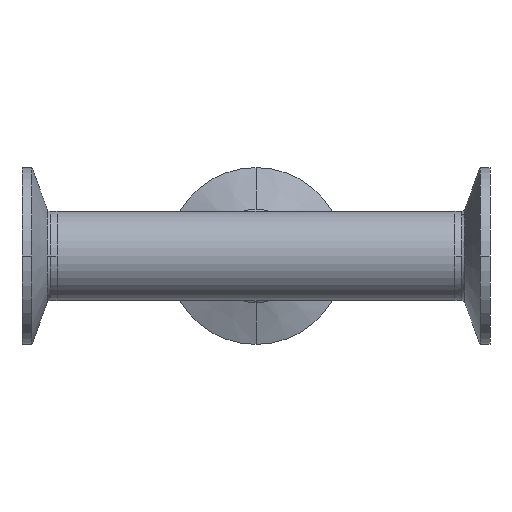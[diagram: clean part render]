
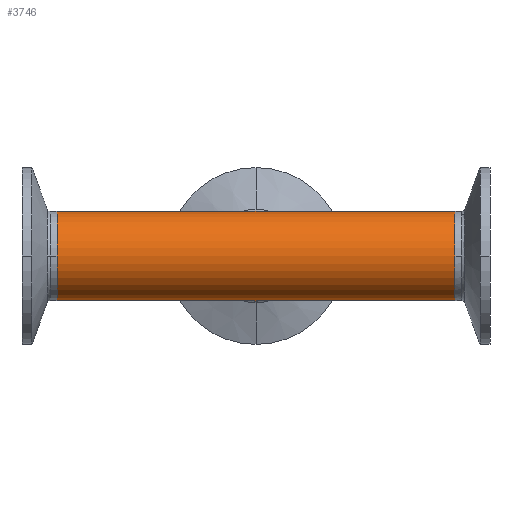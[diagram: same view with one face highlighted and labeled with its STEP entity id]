
A CAD part, front view. The second image highlights one B-rep face of the part: STEP entity #3746.
In plain terms, the highlighted cylindrical face has radius 12.7 mm (diameter 25.4 mm), a partial arc.
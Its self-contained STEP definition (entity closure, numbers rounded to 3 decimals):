
#26 = VECTOR ( 'NONE', #1482, 1000. ) ;
#125 = EDGE_CURVE ( 'NONE', #1245, #1001, #2740, .T. ) ;
#193 = VERTEX_POINT ( 'NONE', #462 ) ;
#200 = FACE_OUTER_BOUND ( 'NONE', #266, .T. ) ;
#238 = LINE ( 'NONE', #2919, #3689 ) ;
#265 = ORIENTED_EDGE ( 'NONE', *, *, #2186, .F. ) ;
#266 = EDGE_LOOP ( 'NONE', ( #1455, #3320, #1765, #2908, #3177, #265 ) ) ;
#320 = DIRECTION ( 'NONE',  ( 0., 0., 1. ) ) ;
#368 = CARTESIAN_POINT ( 'NONE',  ( 56.7, 0., -12.7 ) ) ;
#462 = CARTESIAN_POINT ( 'NONE',  ( -56.7, 0., 12.7 ) ) ;
#615 = DIRECTION ( 'NONE',  ( -1., 0., 0. ) ) ;
#686 = EDGE_CURVE ( 'NONE', #1001, #193, #238, .T. ) ;
#869 = DIRECTION ( 'NONE',  ( -1., 0., 0. ) ) ;
#1001 = VERTEX_POINT ( 'NONE', #3701 ) ;
#1161 = DIRECTION ( 'NONE',  ( 0., 0., 1. ) ) ;
#1197 = LINE ( 'NONE', #2268, #3749 ) ;
#1245 = VERTEX_POINT ( 'NONE', #1497 ) ;
#1355 = AXIS2_PLACEMENT_3D ( 'NONE', #4324, #2357, #320 ) ;
#1381 = EDGE_CURVE ( 'NONE', #2446, #4066, #1197, .T. ) ;
#1455 = ORIENTED_EDGE ( 'NONE', *, *, #1381, .F. ) ;
#1482 = DIRECTION ( 'NONE',  ( -1., 0., 0. ) ) ;
#1497 = CARTESIAN_POINT ( 'NONE',  ( 56.7, 0., 12.7 ) ) ;
#1600 = VERTEX_POINT ( 'NONE', #2104 ) ;
#1625 = DIRECTION ( 'NONE',  ( -1., 0., 0. ) ) ;
#1765 = ORIENTED_EDGE ( 'NONE', *, *, #125, .T. ) ;
#1803 = CARTESIAN_POINT ( 'NONE',  ( 92.621, 0., 12.7 ) ) ;
#1828 = CIRCLE ( 'NONE', #1355, 12.7 ) ;
#1836 = DIRECTION ( 'NONE',  ( -1., 0., 0. ) ) ;
#2104 = CARTESIAN_POINT ( 'NONE',  ( -56.7, 0., -12.7 ) ) ;
#2186 = EDGE_CURVE ( 'NONE', #4066, #1600, #2990, .T. ) ;
#2197 = CARTESIAN_POINT ( 'NONE',  ( 92.621, 0., 0. ) ) ;
#2268 = CARTESIAN_POINT ( 'NONE',  ( 92.621, 0., -12.7 ) ) ;
#2338 = EDGE_CURVE ( 'NONE', #193, #1600, #1828, .T. ) ;
#2357 = DIRECTION ( 'NONE',  ( 1., 0., 0. ) ) ;
#2446 = VERTEX_POINT ( 'NONE', #368 ) ;
#2655 = CARTESIAN_POINT ( 'NONE',  ( 56.7, 0., 0. ) ) ;
#2740 = LINE ( 'NONE', #1803, #26 ) ;
#2890 = VECTOR ( 'NONE', #1625, 1000. ) ;
#2908 = ORIENTED_EDGE ( 'NONE', *, *, #686, .T. ) ;
#2919 = CARTESIAN_POINT ( 'NONE',  ( 92.621, 0., 12.7 ) ) ;
#2987 = DIRECTION ( 'NONE',  ( 0., 0., 1. ) ) ;
#2990 = LINE ( 'NONE', #3603, #2890 ) ;
#3019 = EDGE_CURVE ( 'NONE', #2446, #1245, #3662, .T. ) ;
#3042 = AXIS2_PLACEMENT_3D ( 'NONE', #2197, #4152, #1161 ) ;
#3066 = AXIS2_PLACEMENT_3D ( 'NONE', #2655, #615, #2987 ) ;
#3177 = ORIENTED_EDGE ( 'NONE', *, *, #2338, .T. ) ;
#3320 = ORIENTED_EDGE ( 'NONE', *, *, #3019, .T. ) ;
#3563 = CYLINDRICAL_SURFACE ( 'NONE', #3042, 12.7 ) ;
#3603 = CARTESIAN_POINT ( 'NONE',  ( 92.621, 0., -12.7 ) ) ;
#3662 = CIRCLE ( 'NONE', #3066, 12.7 ) ;
#3689 = VECTOR ( 'NONE', #869, 1000. ) ;
#3701 = CARTESIAN_POINT ( 'NONE',  ( 0., 0., 12.7 ) ) ;
#3746 = ADVANCED_FACE ( 'NONE', ( #200 ), #3563, .T. ) ;
#3749 = VECTOR ( 'NONE', #1836, 1000. ) ;
#4066 = VERTEX_POINT ( 'NONE', #4293 ) ;
#4152 = DIRECTION ( 'NONE',  ( -1., 0., 0. ) ) ;
#4293 = CARTESIAN_POINT ( 'NONE',  ( 0., 0., -12.7 ) ) ;
#4324 = CARTESIAN_POINT ( 'NONE',  ( -56.7, 0., 0. ) ) ;
